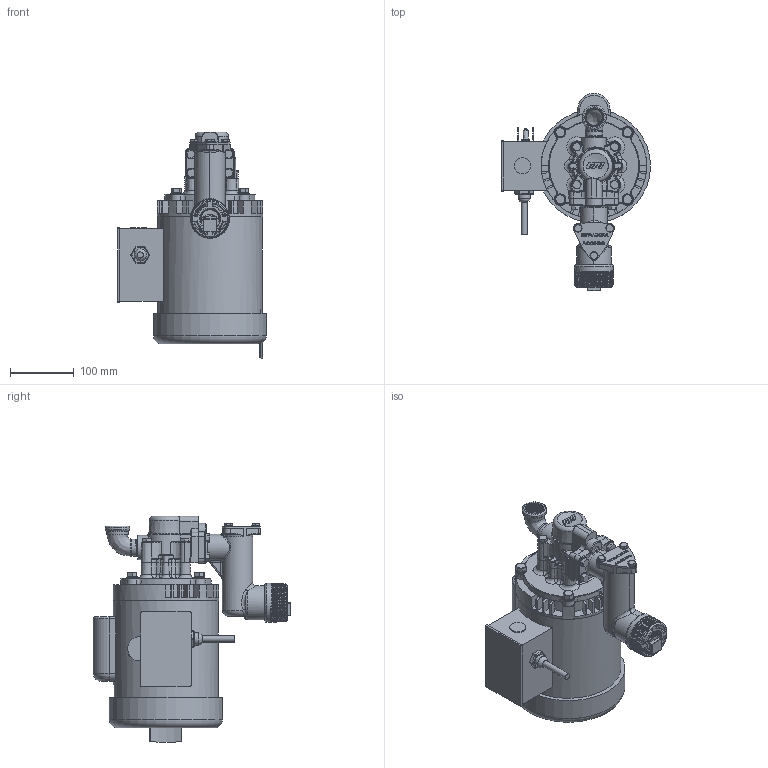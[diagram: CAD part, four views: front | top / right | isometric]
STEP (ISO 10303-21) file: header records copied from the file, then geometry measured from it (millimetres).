
FILE_DESCRIPTION(/* description */ (''),/* implementation_level */ '2;1');
FILE_NAME(/* name */ 'C:\Vault Projects\GPI Eng\New Projects\DHarris\Website model updates\STEP\L5116.stp',/* time_stamp */ '2022-07-18T15:21:40-05:00',/* author */ ('gdanhar'),/* organization */ (''),/* preprocessor_version */ 'ST-DEVELOPER v18.1',/* originating_system */ 'Autodesk Inventor 2022',/* authorisation */ '');
FILE_SCHEMA (('AUTOMOTIVE_DESIGN { 1 0 10303 214 3 1 1 }'));
Products named in the file (1): L5116
Bounding box: 234.31 x 310.71 x 522.21 mm (x, y, z)
Volume: 6777065 mm3; surface area: 364681.7 mm2
Topology: 2 solids, 9 shells, 1999 faces, 5132 edges, 3163 vertices
Faces by surface type: plane 813, bspline 497, cylinder 236, cone 234, torus 154, sphere 65
Full cylindrical faces by diameter (mm): 0.001 x1, 4.978 x3, 6.35 x3, 7.938 x4, 9.512 x4, 9.525 x5, 11.125 x3, 11.989 x3, 12.7 x5, 15.494 x4, 15.875 x1, 18.847 x1, 19.05 x1, 25.4 x1, 26.67 x1, 38.1 x2, 114.3 x1, 165.1 x1, 165.892 x1, 177.8 x1
Entity records: 90291 total; most frequent: CARTESIAN_POINT 43977, ORIENTED_EDGE 10102, DIRECTION 7758, EDGE_CURVE 5051, VERTEX_POINT 3161, AXIS2_PLACEMENT_3D 2834, EDGE_LOOP 2116, LINE 2090
